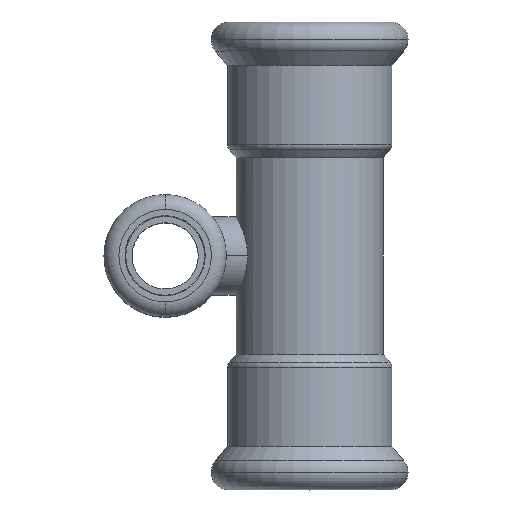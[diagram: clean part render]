
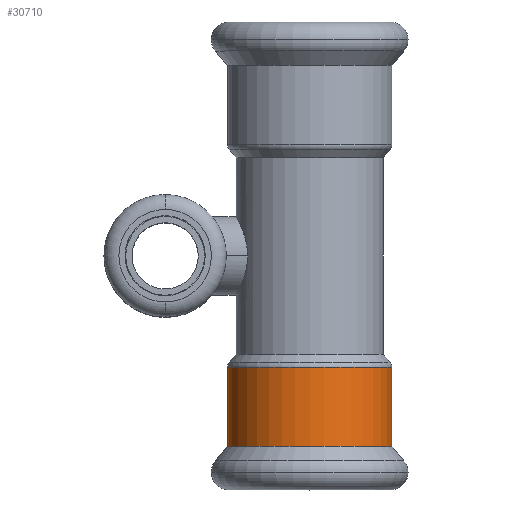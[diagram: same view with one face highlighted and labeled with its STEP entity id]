
A CAD part, top view. The second image highlights one B-rep face of the part: STEP entity #30710.
In plain terms, the highlighted cylindrical face has radius 15.65 mm (diameter 31.3 mm), a partial arc.
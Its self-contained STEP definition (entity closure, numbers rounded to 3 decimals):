
#6780=CARTESIAN_POINT('',(-67.734,26.409,
-27.5));
#6790=DIRECTION('',(-1.,0.,0.));
#6800=DIRECTION('',(0.,0.,-1.));
#6810=AXIS2_PLACEMENT_3D('',#6780,#6790,#6800);
#6820=CYLINDRICAL_SURFACE('',#6810,15.65);
#6830=CARTESIAN_POINT('',(-67.734,26.409,
-11.85));
#6840=DIRECTION('',(-1.,0.,0.));
#6850=VECTOR('',#6840,1.);
#6860=LINE('',#6830,#6850);
#6870=CARTESIAN_POINT('',(-59.928,26.409,
-11.85));
#6880=VERTEX_POINT('',#6870);
#6890=CARTESIAN_POINT('',(-74.98,26.409,
-11.85));
#6900=VERTEX_POINT('',#6890);
#6910=EDGE_CURVE('',#6880,#6900,#6860,.T.);
#6930=CARTESIAN_POINT('',(-59.928,26.409,
-27.5));
#6940=DIRECTION('',(1.,0.,0.));
#6950=DIRECTION('',(0.,0.,-1.));
#6960=AXIS2_PLACEMENT_3D('',#6930,#6940,#6950);
#6970=CIRCLE('',#6960,15.65);
#6980=CARTESIAN_POINT('',(-59.928,26.409,
-43.15));
#6990=VERTEX_POINT('',#6980);
#7020=CARTESIAN_POINT('',(-67.734,26.409,
-43.15));
#7030=DIRECTION('',(-1.,0.,0.));
#7040=VECTOR('',#7030,1.);
#7050=LINE('',#7020,#7040);
#7060=CARTESIAN_POINT('',(-74.98,26.409,
-43.15));
#7070=VERTEX_POINT('',#7060);
#7080=EDGE_CURVE('',#6990,#7070,#7050,.T.);
#7100=CARTESIAN_POINT('',(-74.98,26.409,
-27.5));
#7110=DIRECTION('',(-1.,0.,0.));
#7120=DIRECTION('',(0.,0.,-1.));
#7130=AXIS2_PLACEMENT_3D('',#7100,#7110,#7120);
#7140=CIRCLE('',#7130,15.65);
#30630=EDGE_CURVE('',#6990,#6880,#6970,.T.);
#30640=ORIENTED_EDGE('',*,*,#30630,.F.);
#30650=ORIENTED_EDGE('',*,*,#6910,.F.);
#30660=EDGE_CURVE('',#6900,#7070,#7140,.T.);
#30670=ORIENTED_EDGE('',*,*,#30660,.F.);
#30680=ORIENTED_EDGE('',*,*,#7080,.T.);
#30690=EDGE_LOOP('',(#30680,#30670,#30650,#30640));
#30700=FACE_OUTER_BOUND('',#30690,.T.);
#30710=ADVANCED_FACE('',(#30700),#6820,.T.);
